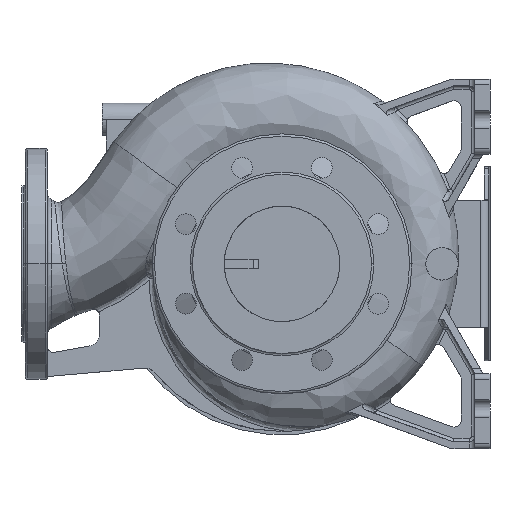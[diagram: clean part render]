
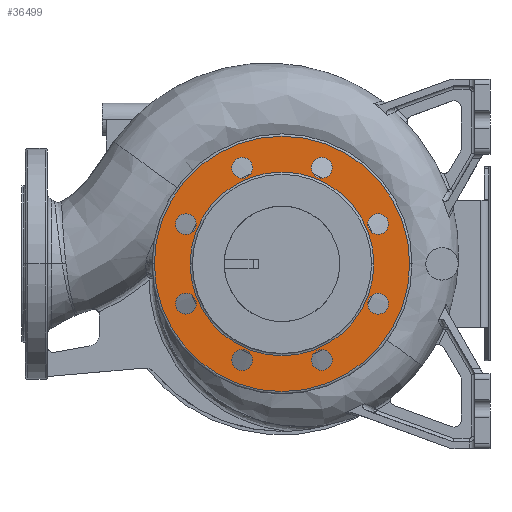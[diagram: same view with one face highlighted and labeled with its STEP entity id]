
A CAD part, front view. The second image highlights one B-rep face of the part: STEP entity #36499.
In plain terms, the highlighted planar face has unit normal (0, -1, 0) as drawn and (0, 0, 1) by its records, which use the part's own axes.
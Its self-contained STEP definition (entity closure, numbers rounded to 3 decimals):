
#26272=CARTESIAN_POINT('',(0.,0.,122.));
#26273=DIRECTION('',(0.,0.,-1.));
#26274=DIRECTION('',(0.,-1.,0.));
#26275=AXIS2_PLACEMENT_3D('',#26272,#26273,#26274);
#26280=CARTESIAN_POINT('',(0.,0.,122.));
#26281=DIRECTION('',(0.,0.,-1.));
#26282=DIRECTION('',(0.,1.,0.));
#26283=AXIS2_PLACEMENT_3D('',#26280,#26281,#26282);
#26288=CARTESIAN_POINT('',(0.,0.,122.));
#26289=DIRECTION('',(0.,0.,1.));
#26290=DIRECTION('',(0.,1.,0.));
#26291=AXIS2_PLACEMENT_3D('',#26288,#26289,#26290);
#26296=CARTESIAN_POINT('',(0.,0.,122.));
#26297=DIRECTION('',(0.,0.,1.));
#26298=DIRECTION('',(0.,-1.,0.));
#26299=AXIS2_PLACEMENT_3D('',#26296,#26297,#26298);
#26304=CARTESIAN_POINT('',(-34.442,83.149,122.));
#26305=DIRECTION('',(0.,0.,1.));
#26306=DIRECTION('',(1.,0.,0.));
#26307=AXIS2_PLACEMENT_3D('',#26304,#26305,#26306);
#26312=CARTESIAN_POINT('',(-34.442,83.149,122.));
#26313=DIRECTION('',(0.,0.,1.));
#26314=DIRECTION('',(-1.,0.,0.));
#26315=AXIS2_PLACEMENT_3D('',#26312,#26313,#26314);
#26320=CARTESIAN_POINT('',(-83.149,34.442,122.));
#26321=DIRECTION('',(0.,0.,1.));
#26322=DIRECTION('',(0.707,0.707,0.));
#26323=AXIS2_PLACEMENT_3D('',#26320,#26321,#26322);
#26328=CARTESIAN_POINT('',(-83.149,34.442,122.));
#26329=DIRECTION('',(0.,0.,1.));
#26330=DIRECTION('',(-0.707,-0.707,0.));
#26331=AXIS2_PLACEMENT_3D('',#26328,#26329,#26330);
#26336=CARTESIAN_POINT('',(-83.149,-34.442,122.));
#26337=DIRECTION('',(0.,0.,1.));
#26338=DIRECTION('',(0.,1.,0.));
#26339=AXIS2_PLACEMENT_3D('',#26336,#26337,#26338);
#26344=CARTESIAN_POINT('',(-83.149,-34.442,122.));
#26345=DIRECTION('',(0.,0.,1.));
#26346=DIRECTION('',(0.,-1.,0.));
#26347=AXIS2_PLACEMENT_3D('',#26344,#26345,#26346);
#26352=CARTESIAN_POINT('',(-34.442,-83.149,122.));
#26353=DIRECTION('',(0.,0.,1.));
#26354=DIRECTION('',(-0.707,0.707,0.));
#26355=AXIS2_PLACEMENT_3D('',#26352,#26353,#26354);
#26360=CARTESIAN_POINT('',(-34.442,-83.149,122.));
#26361=DIRECTION('',(0.,0.,1.));
#26362=DIRECTION('',(0.707,-0.707,0.));
#26363=AXIS2_PLACEMENT_3D('',#26360,#26361,#26362);
#26368=CARTESIAN_POINT('',(34.442,-83.149,122.));
#26369=DIRECTION('',(0.,0.,1.));
#26370=DIRECTION('',(-1.,0.,0.));
#26371=AXIS2_PLACEMENT_3D('',#26368,#26369,#26370);
#26376=CARTESIAN_POINT('',(34.442,-83.149,122.));
#26377=DIRECTION('',(0.,0.,1.));
#26378=DIRECTION('',(1.,0.,0.));
#26379=AXIS2_PLACEMENT_3D('',#26376,#26377,#26378);
#26384=CARTESIAN_POINT('',(83.149,-34.442,122.));
#26385=DIRECTION('',(0.,0.,1.));
#26386=DIRECTION('',(-0.707,-0.707,0.));
#26387=AXIS2_PLACEMENT_3D('',#26384,#26385,#26386);
#26392=CARTESIAN_POINT('',(83.149,-34.442,122.));
#26393=DIRECTION('',(0.,0.,1.));
#26394=DIRECTION('',(0.707,0.707,0.));
#26395=AXIS2_PLACEMENT_3D('',#26392,#26393,#26394);
#26400=CARTESIAN_POINT('',(83.149,34.442,122.));
#26401=DIRECTION('',(0.,0.,1.));
#26402=DIRECTION('',(0.,-1.,0.));
#26403=AXIS2_PLACEMENT_3D('',#26400,#26401,#26402);
#26408=CARTESIAN_POINT('',(83.149,34.442,122.));
#26409=DIRECTION('',(0.,0.,1.));
#26410=DIRECTION('',(0.,1.,0.));
#26411=AXIS2_PLACEMENT_3D('',#26408,#26409,#26410);
#26416=CARTESIAN_POINT('',(34.442,83.149,122.));
#26417=DIRECTION('',(0.,0.,1.));
#26418=DIRECTION('',(0.707,-0.707,0.));
#26419=AXIS2_PLACEMENT_3D('',#26416,#26417,#26418);
#26424=CARTESIAN_POINT('',(34.442,83.149,122.));
#26425=DIRECTION('',(0.,0.,1.));
#26426=DIRECTION('',(-0.707,0.707,0.));
#26427=AXIS2_PLACEMENT_3D('',#26424,#26425,#26426);
#28727=CARTESIAN_POINT('',(0.,-79.5,122.));
#28728=CARTESIAN_POINT('',(0.,79.5,122.));
#28729=VERTEX_POINT('',#28727);
#28730=VERTEX_POINT('',#28728);
#28731=CARTESIAN_POINT('',(0.,110.5,122.));
#28732=CARTESIAN_POINT('',(0.,-110.5,122.));
#28733=VERTEX_POINT('',#28731);
#28734=VERTEX_POINT('',#28732);
#29384=CARTESIAN_POINT('',(-25.442,83.149,122.));
#29385=CARTESIAN_POINT('',(-43.442,83.149,122.));
#29386=VERTEX_POINT('',#29384);
#29387=VERTEX_POINT('',#29385);
#29392=CARTESIAN_POINT('',(-76.785,40.805,122.));
#29393=CARTESIAN_POINT('',(-89.513,28.078,122.));
#29394=VERTEX_POINT('',#29392);
#29395=VERTEX_POINT('',#29393);
#29400=CARTESIAN_POINT('',(-83.149,-25.442,122.));
#29401=CARTESIAN_POINT('',(-83.149,-43.442,122.));
#29402=VERTEX_POINT('',#29400);
#29403=VERTEX_POINT('',#29401);
#29408=CARTESIAN_POINT('',(-40.805,-76.785,122.));
#29409=CARTESIAN_POINT('',(-28.078,-89.513,122.));
#29410=VERTEX_POINT('',#29408);
#29411=VERTEX_POINT('',#29409);
#29416=CARTESIAN_POINT('',(25.442,-83.149,122.));
#29417=CARTESIAN_POINT('',(43.442,-83.149,122.));
#29418=VERTEX_POINT('',#29416);
#29419=VERTEX_POINT('',#29417);
#29424=CARTESIAN_POINT('',(76.785,-40.805,122.));
#29425=CARTESIAN_POINT('',(89.513,-28.078,122.));
#29426=VERTEX_POINT('',#29424);
#29427=VERTEX_POINT('',#29425);
#29432=CARTESIAN_POINT('',(83.149,25.442,122.));
#29433=CARTESIAN_POINT('',(83.149,43.442,122.));
#29434=VERTEX_POINT('',#29432);
#29435=VERTEX_POINT('',#29433);
#29440=CARTESIAN_POINT('',(40.805,76.785,122.));
#29441=CARTESIAN_POINT('',(28.078,89.513,122.));
#29442=VERTEX_POINT('',#29440);
#29443=VERTEX_POINT('',#29441);
#36435=CARTESIAN_POINT('',(0.,0.,122.));
#36436=DIRECTION('',(0.,0.,-1.));
#36437=DIRECTION('',(0.,-1.,0.));
#36438=AXIS2_PLACEMENT_3D('',#36435,#36436,#36437);
#36439=PLANE('',#36438);
#36440=ORIENTED_EDGE('',*,*,#36425,.F.);
#36442=ORIENTED_EDGE('',*,*,#36441,.F.);
#36443=EDGE_LOOP('',(#36440,#36442));
#36444=FACE_OUTER_BOUND('',#36443,.F.);
#36446=ORIENTED_EDGE('',*,*,#36445,.F.);
#36448=ORIENTED_EDGE('',*,*,#36447,.F.);
#36449=EDGE_LOOP('',(#36446,#36448));
#36450=FACE_BOUND('',#36449,.F.);
#36452=ORIENTED_EDGE('',*,*,#36451,.T.);
#36454=ORIENTED_EDGE('',*,*,#36453,.T.);
#36455=EDGE_LOOP('',(#36452,#36454));
#36456=FACE_BOUND('',#36455,.F.);
#36458=ORIENTED_EDGE('',*,*,#36457,.T.);
#36460=ORIENTED_EDGE('',*,*,#36459,.T.);
#36461=EDGE_LOOP('',(#36458,#36460));
#36462=FACE_BOUND('',#36461,.F.);
#36464=ORIENTED_EDGE('',*,*,#36463,.T.);
#36466=ORIENTED_EDGE('',*,*,#36465,.T.);
#36467=EDGE_LOOP('',(#36464,#36466));
#36468=FACE_BOUND('',#36467,.F.);
#36470=ORIENTED_EDGE('',*,*,#36469,.T.);
#36472=ORIENTED_EDGE('',*,*,#36471,.T.);
#36473=EDGE_LOOP('',(#36470,#36472));
#36474=FACE_BOUND('',#36473,.F.);
#36476=ORIENTED_EDGE('',*,*,#36475,.T.);
#36478=ORIENTED_EDGE('',*,*,#36477,.T.);
#36479=EDGE_LOOP('',(#36476,#36478));
#36480=FACE_BOUND('',#36479,.F.);
#36482=ORIENTED_EDGE('',*,*,#36481,.T.);
#36484=ORIENTED_EDGE('',*,*,#36483,.T.);
#36485=EDGE_LOOP('',(#36482,#36484));
#36486=FACE_BOUND('',#36485,.F.);
#36488=ORIENTED_EDGE('',*,*,#36487,.T.);
#36490=ORIENTED_EDGE('',*,*,#36489,.T.);
#36491=EDGE_LOOP('',(#36488,#36490));
#36492=FACE_BOUND('',#36491,.F.);
#36494=ORIENTED_EDGE('',*,*,#36493,.T.);
#36496=ORIENTED_EDGE('',*,*,#36495,.T.);
#36497=EDGE_LOOP('',(#36494,#36496));
#36498=FACE_BOUND('',#36497,.F.);
#26276=CIRCLE('',#26275,79.5);
#26284=CIRCLE('',#26283,79.5);
#26292=CIRCLE('',#26291,110.5);
#26300=CIRCLE('',#26299,110.5);
#26308=CIRCLE('',#26307,9.);
#26316=CIRCLE('',#26315,9.);
#26324=CIRCLE('',#26323,9.);
#26332=CIRCLE('',#26331,9.);
#26340=CIRCLE('',#26339,9.);
#26348=CIRCLE('',#26347,9.);
#26356=CIRCLE('',#26355,9.);
#26364=CIRCLE('',#26363,9.);
#26372=CIRCLE('',#26371,9.);
#26380=CIRCLE('',#26379,9.);
#26388=CIRCLE('',#26387,9.);
#26396=CIRCLE('',#26395,9.);
#26404=CIRCLE('',#26403,9.);
#26412=CIRCLE('',#26411,9.);
#26420=CIRCLE('',#26419,9.);
#26428=CIRCLE('',#26427,9.);
#36425=EDGE_CURVE('',#28733,#28734,#26292,.T.);
#36441=EDGE_CURVE('',#28734,#28733,#26300,.T.);
#36445=EDGE_CURVE('',#28729,#28730,#26276,.T.);
#36447=EDGE_CURVE('',#28730,#28729,#26284,.T.);
#36451=EDGE_CURVE('',#29386,#29387,#26308,.T.);
#36453=EDGE_CURVE('',#29387,#29386,#26316,.T.);
#36457=EDGE_CURVE('',#29394,#29395,#26324,.T.);
#36459=EDGE_CURVE('',#29395,#29394,#26332,.T.);
#36463=EDGE_CURVE('',#29402,#29403,#26340,.T.);
#36465=EDGE_CURVE('',#29403,#29402,#26348,.T.);
#36469=EDGE_CURVE('',#29410,#29411,#26356,.T.);
#36471=EDGE_CURVE('',#29411,#29410,#26364,.T.);
#36475=EDGE_CURVE('',#29418,#29419,#26372,.T.);
#36477=EDGE_CURVE('',#29419,#29418,#26380,.T.);
#36481=EDGE_CURVE('',#29426,#29427,#26388,.T.);
#36483=EDGE_CURVE('',#29427,#29426,#26396,.T.);
#36487=EDGE_CURVE('',#29434,#29435,#26404,.T.);
#36489=EDGE_CURVE('',#29435,#29434,#26412,.T.);
#36493=EDGE_CURVE('',#29442,#29443,#26420,.T.);
#36495=EDGE_CURVE('',#29443,#29442,#26428,.T.);
#36499=ADVANCED_FACE('',(#36444,#36450,#36456,#36462,#36468,#36474,#36480,
#36486,#36492,#36498),#36439,.F.);
